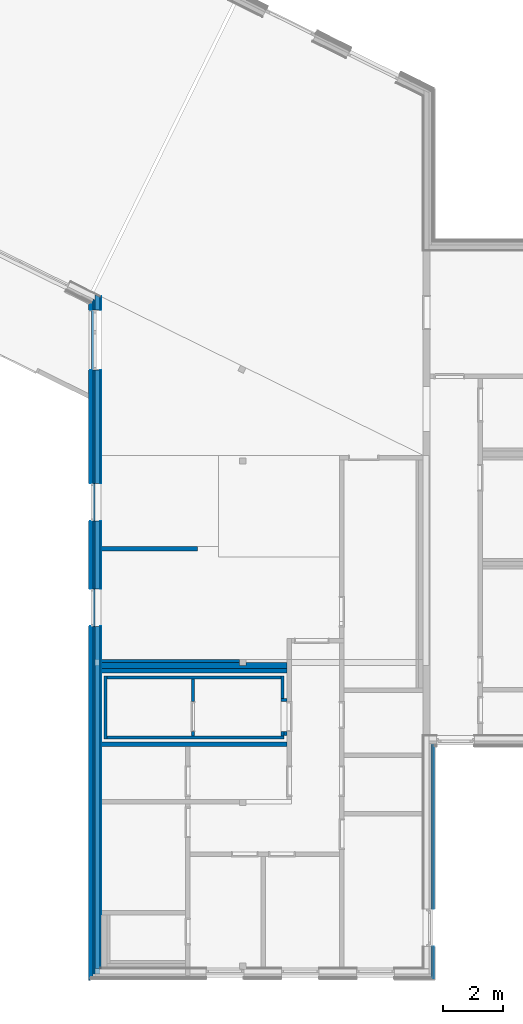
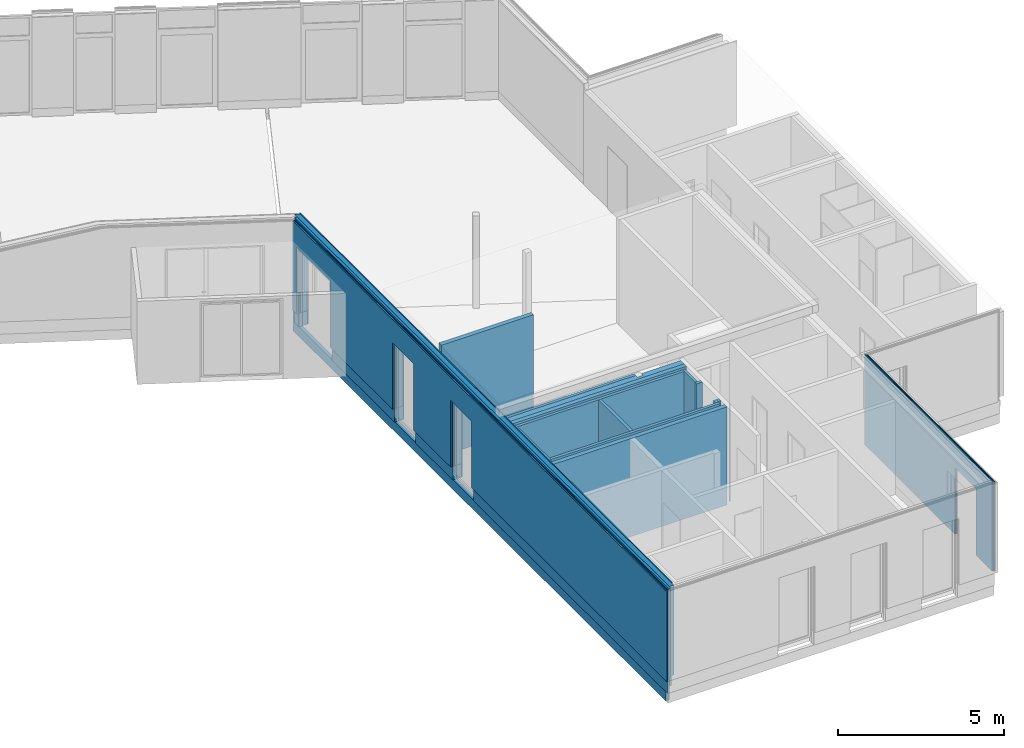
# One storey, part 2 of 23: 27 walls, 37 openings.
"""IFC4 building model written with IfcOpenShell, lengths in metres."""

from ifc_helpers import new_model, entity, si_unit, converted_unit, derived_unit, frame, frame_2d, origin, origin_with_axes, place, context, subcontext, project, spatial, polyline, rectangle, outline, extrude, material, element, save


model = new_model("IFC4")

# Units and contexts
model_context = context("Model", 3, precision=1e-05, world=origin())
body_context = subcontext(model_context, "Body", "Model", "MODEL_VIEW")
ifc_project = project(units=[si_unit("LENGTHUNIT", "METRE"), si_unit("AREAUNIT", "SQUARE_METRE"), si_unit("VOLUMEUNIT", "CUBIC_METRE"), si_unit("MASSUNIT", "GRAM", prefix="KILO"), converted_unit("PLANEANGLEUNIT", "DEGREE", entity("IfcPlaneAngleMeasure", 0.0174532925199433), si_unit("PLANEANGLEUNIT", "RADIAN"), dimensions=[0, 0, 0, 0, 0, 0, 0]), derived_unit("THERMALTRANSMITTANCEUNIT", [(si_unit("POWERUNIT", "WATT"), 1), (si_unit("THERMODYNAMICTEMPERATUREUNIT", "KELVIN"), -1), (si_unit("LENGTHUNIT", "METRE"), -2)]), derived_unit("VOLUMETRICFLOWRATEUNIT", [(si_unit("LENGTHUNIT", "METRE"), 3), (converted_unit("TIMEUNIT", "hour", entity("IfcTimeMeasure", 3600.0), si_unit("TIMEUNIT", "SECOND"), dimensions=[0, 0, 1, 0, 0, 0, 0]), -1), (si_unit("LENGTHUNIT", "METRE"), -1)])], contexts=[model_context])

# Site, building, storey
site_placement = place(None, origin())
site = spatial("IfcSite", under=ifc_project, at=site_placement, Name="Psychiatrie Neubau Wunstorf", CompositionType="ELEMENT")
building_placement = place(site_placement, origin())
building = spatial("IfcBuilding", under=site, at=building_placement, Name="Neubau H1 Sozialzentrum", CompositionType="ELEMENT")
storey_placement = place(building_placement, frame((0.0, 0.0, 0.7)))
storey = spatial("IfcBuildingStorey", under=building, at=storey_placement, Name="H1 Ebene 0", CompositionType="ELEMENT", Elevation=0.7)

# Wall, opening
ifc_material_1 = material(Name="WA-LB")
wall_1_placement = place(storey_placement, frame((-4.89052724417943, 11.6802463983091, 0.3), z_axis=(0.0, 0.0, 1.0), x_axis=(3.09474937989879e-07, -0.999999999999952, 0.0)))
wall_1 = element("IfcWall", 1, at=wall_1_placement, inside=storey, material=ifc_material_1, context=body_context, shape_type="SweptSolid", body=[
    extrude(rectangle(XDim=7.69392435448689, YDim=0.0360000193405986, at=frame_2d((3.84696217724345, 0.0180000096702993), x_axis=(1.0, 0.0))), origin_with_axes(), (0.0, 0.0, 1.0), 3.3),
])
opening_1_placement = place(wall_1_placement, frame((5.4539999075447, 0.0, -0.5), z_axis=(0.0, 1.0, 0.0), x_axis=(0.0, 0.0, 1.0)))
element("IfcOpeningElement", 2, at=opening_1_placement, cuts=wall_1, Name="Türöffnung", ObjectType="Opening", context=body_context, shape_type="SweptSolid", body=[
    extrude(outline(polyline([(2.95, 1.26), (2.95, 0.0), (0.0, 0.0), (0.0, 1.26), (2.95, 1.26)])), origin_with_axes(), (0.0, 0.0, 1.0), 0.0360000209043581),
])

ifc_material_2 = material(Name="WA-KL")
wall_2_placement = place(storey_placement, frame((-4.85452721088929, 11.6562463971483, 0.3), z_axis=(0.0, 0.0, 1.0), x_axis=(3.0859692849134e-07, -0.999999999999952, 0.0)))
wall_2 = element("IfcWall", 3, at=wall_2_placement, inside=storey, material=ifc_material_2, context=body_context, shape_type="SweptSolid", body=[
    extrude(rectangle(XDim=7.70592435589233, YDim=0.0240000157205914, at=frame_2d((3.85296217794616, 0.0120000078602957), x_axis=(1.0, 0.0))), origin_with_axes(), (0.0, 0.0, 1.0), 3.3),
])
opening_2_placement = place(wall_2_placement, frame((5.4299998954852, 0.0, -0.5), z_axis=(0.0, 1.0, 0.0), x_axis=(0.0, 0.0, 1.0)))
element("IfcOpeningElement", 4, at=opening_2_placement, cuts=wall_2, Name="Türöffnung", ObjectType="Opening", context=body_context, shape_type="SweptSolid", body=[
    extrude(outline(polyline([(2.95, 1.26), (2.95, 0.0), (0.0, 0.0), (0.0, 1.26), (2.95, 1.26)])), origin_with_axes(), (0.0, 0.0, 1.0), 0.0240000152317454),
])

ifc_material_3 = material(Name="WA-TL")
wall_3_placement = place(storey_placement, frame((-4.83052718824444, 11.6322463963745, 0.3), z_axis=(0.0, 0.0, 1.0), x_axis=(3.08641270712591e-07, -0.999999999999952, 0.0)))
wall_3 = element("IfcWall", 5, at=wall_3_placement, inside=storey, material=ifc_material_3, context=body_context, shape_type="SweptSolid", body=[
    extrude(outline(polyline([(-7.70592364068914, 2.37836606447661e-06), (0.0, 2.37836606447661e-06), (0.0, 0.0240024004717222), (-7.70592363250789, 0.0240023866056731), (-7.70592364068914, 2.37836606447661e-06)])), frame((7.70592364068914, -2.37836606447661e-06, 0.0), z_axis=(0.0, 0.0, 1.0), x_axis=(1.0, 0.0, 0.0)), (0.0, 0.0, 1.0), 3.3),
])
opening_3_placement = place(wall_3_placement, frame((5.40599988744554, 0.0, -0.5), z_axis=(0.0, 1.0, 0.0), x_axis=(0.0, 0.0, 1.0)))
element("IfcOpeningElement", 6, at=opening_3_placement, cuts=wall_3, Name="Türöffnung", ObjectType="Opening", context=body_context, shape_type="SweptSolid", body=[
    extrude(outline(polyline([(2.95, 1.26), (2.95, 0.0), (0.0, 0.0), (0.0, 1.26), (2.95, 1.26)])), origin_with_axes(), (0.0, 0.0, 1.0), 0.0240000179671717),
])

# Wall, openings
ifc_material_4 = material(Name="WA-LB")
wall_4_placement = place(storey_placement, frame((-15.8625266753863, 4.22632136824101, 0.3), z_axis=(0.0, 0.0, 1.0), x_axis=(8.14047304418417e-17, 1.0, 0.0)))
wall_4 = element("IfcWall", 7, at=wall_4_placement, inside=storey, material=ifc_material_4, context=body_context, shape_type="SweptSolid", body=[
    extrude(outline(polyline([(0.0, -0.0359999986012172), (22.345008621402, -0.0359999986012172), (22.3627585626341, 0.0), (0.0, 0.0), (0.0, -0.0359999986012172)])), frame((0.0, 0.0359999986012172, 0.0), z_axis=(0.0, 0.0, 1.0), x_axis=(1.0, 0.0, 0.0)), (0.0, 0.0, 1.0), 3.3),
])
opening_4_placement = place(wall_4_placement, frame((12.6339998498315, 0.0359999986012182, -0.5), z_axis=(0.0, -1.0, 0.0), x_axis=(0.0, 0.0, 1.0)))
element("IfcOpeningElement", 8, at=opening_4_placement, cuts=wall_4, Name="Fensteröffnung", ObjectType="Opening", context=body_context, shape_type="SweptSolid", body=[
    extrude(outline(polyline([(2.95, 1.25), (2.95, 0.0), (0.0, 0.0), (0.0, 1.25), (2.95, 1.25)])), origin_with_axes(), (0.0, 0.0, 1.0), 0.0359999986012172),
])
opening_5_placement = place(wall_4_placement, frame((16.1339998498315, 0.0359999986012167, -0.5), z_axis=(0.0, -1.0, 0.0), x_axis=(0.0, 0.0, 1.0)))
element("IfcOpeningElement", 9, at=opening_5_placement, cuts=wall_4, Name="Fensteröffnung", ObjectType="Opening", context=body_context, shape_type="SweptSolid", body=[
    extrude(outline(polyline([(2.95, 1.25), (2.95, 0.0), (0.0, 0.0), (0.0, 1.25), (2.95, 1.25)])), origin_with_axes(), (0.0, 0.0, 1.0), 0.0359999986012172),
])
opening_6_placement = place(wall_4_placement, frame((19.9022323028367, 0.0, -0.3), z_axis=(0.0, 1.0, 0.0), x_axis=(0.0, 0.0, 1.0)))
element("IfcOpeningElement", 10, at=opening_6_placement, cuts=wall_4, Name="Türöffnung", ObjectType="Opening", context=body_context, shape_type="SweptSolid", body=[
    extrude(outline(polyline([(2.75, 1.9999724), (2.75, 0.0), (0.0, 0.0), (0.0, 1.9999724), (2.75, 1.9999724)])), origin_with_axes(), (0.0, 0.0, 1.0), 0.0359999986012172),
])

ifc_material_5 = material(Name="WA-HD")
wall_5_placement = place(storey_placement, frame((-15.8985266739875, 4.06632204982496, 0.3), z_axis=(0.0, 0.0, 1.0), x_axis=(8.09064697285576e-17, 1.0, 0.0)))
wall_5 = element("IfcWall", 11, at=wall_5_placement, inside=storey, material=ifc_material_5, context=body_context, shape_type="SweptSolid", body=[
    extrude(outline(polyline([(0.0, -0.159999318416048), (22.4826198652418, -0.159999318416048), (22.5615081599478, 0.0), (0.0, 0.0), (0.0, -0.159999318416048)])), frame((0.0, 0.159999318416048, 0.0), z_axis=(0.0, 0.0, 1.0), x_axis=(1.0, 0.0, 0.0)), (0.0, 0.0, 1.0), 3.3),
])
opening_7_placement = place(wall_5_placement, frame((12.7939991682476, 0.15999931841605, -0.5), z_axis=(0.0, -1.0, 0.0), x_axis=(0.0, 0.0, 1.0)))
element("IfcOpeningElement", 12, at=opening_7_placement, cuts=wall_5, Name="Fensteröffnung", ObjectType="Opening", context=body_context, shape_type="SweptSolid", body=[
    extrude(outline(polyline([(2.95, 1.25), (2.95, 0.0), (0.0, 0.0), (0.0, 1.25), (2.95, 1.25)])), origin_with_axes(), (0.0, 0.0, 1.0), 0.159999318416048),
])
opening_8_placement = place(wall_5_placement, frame((16.2939991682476, 0.159999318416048, -0.5), z_axis=(0.0, -1.0, 0.0), x_axis=(0.0, 0.0, 1.0)))
element("IfcOpeningElement", 13, at=opening_8_placement, cuts=wall_5, Name="Fensteröffnung", ObjectType="Opening", context=body_context, shape_type="SweptSolid", body=[
    extrude(outline(polyline([(2.95, 1.25), (2.95, 0.0), (0.0, 0.0), (0.0, 1.25), (2.95, 1.25)])), origin_with_axes(), (0.0, 0.0, 1.0), 0.159999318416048),
])
opening_9_placement = place(wall_5_placement, frame((20.0622316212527, 0.0, -0.3), z_axis=(0.0, 1.0, 0.0), x_axis=(0.0, 0.0, 1.0)))
element("IfcOpeningElement", 14, at=opening_9_placement, cuts=wall_5, Name="Türöffnung", ObjectType="Opening", context=body_context, shape_type="SweptSolid", body=[
    extrude(outline(polyline([(2.75, 1.9999724), (2.75, 0.0), (0.0, 0.0), (0.0, 1.9999724), (2.75, 1.9999724)])), origin_with_axes(), (0.0, 0.0, 1.0), 0.159999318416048),
])

ifc_material_6 = material(Name="WA-DL")
wall_6_placement = place(storey_placement, frame((-16.0585259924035, 3.98632204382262, 0.3), z_axis=(0.0, 0.0, 1.0), x_axis=(8.09767114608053e-17, 1.0, 0.0)))
wall_6 = element("IfcWall", 15, at=wall_6_placement, inside=storey, material=ifc_material_6, context=body_context, shape_type="SweptSolid", body=[
    extrude(outline(polyline([(0.0, -0.0800000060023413), (22.4631177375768, -0.0800000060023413), (22.5025620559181, 0.0), (0.0, 0.0), (0.0, -0.0800000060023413)])), frame((0.0, 0.0800000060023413, 0.0), z_axis=(0.0, 0.0, 1.0), x_axis=(1.0, 0.0, 0.0)), (0.0, 0.0, 1.0), 3.3),
])
opening_10_placement = place(wall_6_placement, frame((12.8739991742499, 0.0800000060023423, -0.5), z_axis=(0.0, -1.0, 0.0), x_axis=(0.0, 0.0, 1.0)))
element("IfcOpeningElement", 16, at=opening_10_placement, cuts=wall_6, Name="Fensteröffnung", ObjectType="Opening", context=body_context, shape_type="SweptSolid", body=[
    extrude(outline(polyline([(2.95, 1.25), (2.95, 0.0), (0.0, 0.0), (0.0, 1.25), (2.95, 1.25)])), origin_with_axes(), (0.0, 0.0, 1.0), 0.0800000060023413),
])
opening_11_placement = place(wall_6_placement, frame((16.3739991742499, 0.0800000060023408, -0.5), z_axis=(0.0, -1.0, 0.0), x_axis=(0.0, 0.0, 1.0)))
element("IfcOpeningElement", 17, at=opening_11_placement, cuts=wall_6, Name="Fensteröffnung", ObjectType="Opening", context=body_context, shape_type="SweptSolid", body=[
    extrude(outline(polyline([(2.95, 1.25), (2.95, 0.0), (0.0, 0.0), (0.0, 1.25), (2.95, 1.25)])), origin_with_axes(), (0.0, 0.0, 1.0), 0.0800000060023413),
])
opening_12_placement = place(wall_6_placement, frame((20.1422316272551, 0.0, -0.3), z_axis=(0.0, 1.0, 0.0), x_axis=(0.0, 0.0, 1.0)))
element("IfcOpeningElement", 18, at=opening_12_placement, cuts=wall_6, Name="Türöffnung", ObjectType="Opening", context=body_context, shape_type="SweptSolid", body=[
    extrude(outline(polyline([(2.75, 1.9999724), (2.75, 0.0), (0.0, 0.0), (0.0, 1.9999724), (2.75, 1.9999724)])), origin_with_axes(), (0.0, 0.0, 1.0), 0.0800000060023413),
])

ifc_material_7 = material(Name="WA-LB")
wall_7_placement = place(storey_placement, frame((-16.1385259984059, 3.95032204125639, 0.3), z_axis=(0.0, 0.0, 1.0), x_axis=(8.10263134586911e-17, 1.0, 0.0)))
wall_7 = element("IfcWall", 19, at=wall_7_placement, inside=storey, material=ifc_material_7, context=body_context, shape_type="SweptSolid", body=[
    extrude(outline(polyline([(0.0, -0.0360000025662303), (22.4493664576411, -0.0360000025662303), (22.4671164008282, 0.0), (0.0, 0.0), (0.0, -0.0360000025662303)])), frame((0.0, 0.0360000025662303, 0.0), z_axis=(0.0, 0.0, 1.0), x_axis=(1.0, 0.0, 0.0)), (0.0, 0.0, 1.0), 3.3),
])
opening_13_placement = place(wall_7_placement, frame((12.9099991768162, 0.0360000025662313, -0.5), z_axis=(0.0, -1.0, 0.0), x_axis=(0.0, 0.0, 1.0)))
element("IfcOpeningElement", 20, at=opening_13_placement, cuts=wall_7, Name="Fensteröffnung", ObjectType="Opening", context=body_context, shape_type="SweptSolid", body=[
    extrude(outline(polyline([(2.95, 1.25), (2.95, 0.0), (0.0, 0.0), (0.0, 1.25), (2.95, 1.25)])), origin_with_axes(), (0.0, 0.0, 1.0), 0.0360000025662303),
])
opening_14_placement = place(wall_7_placement, frame((16.4099991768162, 0.0360000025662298, -0.5), z_axis=(0.0, -1.0, 0.0), x_axis=(0.0, 0.0, 1.0)))
element("IfcOpeningElement", 21, at=opening_14_placement, cuts=wall_7, Name="Fensteröffnung", ObjectType="Opening", context=body_context, shape_type="SweptSolid", body=[
    extrude(outline(polyline([(2.95, 1.25), (2.95, 0.0), (0.0, 0.0), (0.0, 1.25), (2.95, 1.25)])), origin_with_axes(), (0.0, 0.0, 1.0), 0.0360000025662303),
])
opening_15_placement = place(wall_7_placement, frame((20.1782316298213, 0.0, -0.3), z_axis=(0.0, 1.0, 0.0), x_axis=(0.0, 0.0, 1.0)))
element("IfcOpeningElement", 22, at=opening_15_placement, cuts=wall_7, Name="Türöffnung", ObjectType="Opening", context=body_context, shape_type="SweptSolid", body=[
    extrude(outline(polyline([(2.75, 1.9999724), (2.75, 0.0), (0.0, 0.0), (0.0, 1.9999724), (2.75, 1.9999724)])), origin_with_axes(), (0.0, 0.0, 1.0), 0.0360000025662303),
])

ifc_material_8 = material(Name="WA-KL")
wall_8_placement = place(storey_placement, frame((-16.1745260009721, 3.92632275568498, 0.3), z_axis=(0.0, 0.0, 1.0), x_axis=(8.10204985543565e-17, 1.0, 0.0)))
wall_8 = element("IfcWall", 23, at=wall_8_placement, inside=storey, material=ifc_material_8, context=body_context, shape_type="SweptSolid", body=[
    extrude(outline(polyline([(0.0, -0.0239992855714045), (22.4509776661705, -0.0239992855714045), (22.4628106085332, 0.0), (0.0, 0.0), (0.0, -0.0239992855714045)])), frame((0.0, 0.0239992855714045, 0.0), z_axis=(0.0, 0.0, 1.0), x_axis=(1.0, 0.0, 0.0)), (0.0, 0.0, 1.0), 3.3),
])
opening_16_placement = place(wall_8_placement, frame((12.9339984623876, 0.0239992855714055, -0.5), z_axis=(0.0, -1.0, 0.0), x_axis=(0.0, 0.0, 1.0)))
element("IfcOpeningElement", 24, at=opening_16_placement, cuts=wall_8, Name="Fensteröffnung", ObjectType="Opening", context=body_context, shape_type="SweptSolid", body=[
    extrude(outline(polyline([(2.95, 1.25), (2.95, 0.0), (0.0, 0.0), (0.0, 1.25), (2.95, 1.25)])), origin_with_axes(), (0.0, 0.0, 1.0), 0.0239992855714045),
])
opening_17_placement = place(wall_8_placement, frame((16.4339984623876, 0.023999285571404, -0.5), z_axis=(0.0, -1.0, 0.0), x_axis=(0.0, 0.0, 1.0)))
element("IfcOpeningElement", 25, at=opening_17_placement, cuts=wall_8, Name="Fensteröffnung", ObjectType="Opening", context=body_context, shape_type="SweptSolid", body=[
    extrude(outline(polyline([(2.95, 1.25), (2.95, 0.0), (0.0, 0.0), (0.0, 1.25), (2.95, 1.25)])), origin_with_axes(), (0.0, 0.0, 1.0), 0.0239992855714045),
])
opening_18_placement = place(wall_8_placement, frame((20.2022309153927, 0.0, -0.3), z_axis=(0.0, 1.0, 0.0), x_axis=(0.0, 0.0, 1.0)))
element("IfcOpeningElement", 26, at=opening_18_placement, cuts=wall_8, Name="Türöffnung", ObjectType="Opening", context=body_context, shape_type="SweptSolid", body=[
    extrude(outline(polyline([(2.75, 1.9999724), (2.75, 0.0), (0.0, 0.0), (0.0, 1.9999724), (2.75, 1.9999724)])), origin_with_axes(), (0.0, 0.0, 1.0), 0.0239992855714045),
])

ifc_material_9 = material(Name="WA-TL")
wall_9_placement = place(storey_placement, frame((-16.1985252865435, 3.90232275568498, 0.3), z_axis=(0.0, 0.0, 1.0), x_axis=(8.09877619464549e-17, 1.0, 0.0)))
wall_9 = element("IfcWall", 27, at=wall_9_placement, inside=storey, material=ifc_material_9, context=body_context, shape_type="SweptSolid", body=[
    extrude(outline(polyline([(0.0, -0.024), (22.4600527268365, -0.024), (22.471886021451, 0.0), (0.0, 0.0), (0.0, -0.024)])), frame((0.0, 0.024, 0.0), z_axis=(0.0, 0.0, 1.0), x_axis=(1.0, 0.0, 0.0)), (0.0, 0.0, 1.0), 3.3),
])
opening_19_placement = place(wall_9_placement, frame((12.9579984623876, 0.024000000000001, -0.5), z_axis=(0.0, -1.0, 0.0), x_axis=(0.0, 0.0, 1.0)))
element("IfcOpeningElement", 28, at=opening_19_placement, cuts=wall_9, Name="Fensteröffnung", ObjectType="Opening", context=body_context, shape_type="SweptSolid", body=[
    extrude(outline(polyline([(2.95, 1.25), (2.95, 0.0), (0.0, 0.0), (0.0, 1.25), (2.95, 1.25)])), origin_with_axes(), (0.0, 0.0, 1.0), 0.024),
])
opening_20_placement = place(wall_9_placement, frame((16.4579984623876, 0.0239999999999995, -0.5), z_axis=(0.0, -1.0, 0.0), x_axis=(0.0, 0.0, 1.0)))
element("IfcOpeningElement", 29, at=opening_20_placement, cuts=wall_9, Name="Fensteröffnung", ObjectType="Opening", context=body_context, shape_type="SweptSolid", body=[
    extrude(outline(polyline([(2.95, 1.25), (2.95, 0.0), (0.0, 0.0), (0.0, 1.25), (2.95, 1.25)])), origin_with_axes(), (0.0, 0.0, 1.0), 0.024),
])
opening_21_placement = place(wall_9_placement, frame((20.2262309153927, 0.0, -0.3), z_axis=(0.0, 1.0, 0.0), x_axis=(0.0, 0.0, 1.0)))
element("IfcOpeningElement", 30, at=opening_21_placement, cuts=wall_9, Name="Türöffnung", ObjectType="Opening", context=body_context, shape_type="SweptSolid", body=[
    extrude(outline(polyline([(2.75, 1.9999724), (2.75, 0.0), (0.0, 0.0), (0.0, 1.9999724), (2.75, 1.9999724)])), origin_with_axes(), (0.0, 0.0, 1.0), 0.024),
])

ifc_material_10 = material(Name="WA-HS")
wall_10_placement = place(storey_placement, frame((-16.2225252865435, 3.86032275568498, 0.3), z_axis=(0.0, 0.0, 1.0), x_axis=(8.08902522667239e-17, 1.0, 0.0)))
wall_10 = element("IfcWall", 31, at=wall_10_placement, inside=storey, material=ifc_material_10, context=body_context, shape_type="SweptSolid", body=[
    extrude(outline(polyline([(0.0, -0.042), (22.4871273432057, -0.042), (22.5078356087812, 0.0), (0.0, 0.0), (0.0, -0.042)])), frame((0.0, 0.042, 0.0), z_axis=(0.0, 0.0, 1.0), x_axis=(1.0, 0.0, 0.0)), (0.0, 0.0, 1.0), 3.3),
])
opening_22_placement = place(wall_10_placement, frame((12.9999984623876, 0.0420000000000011, -0.5), z_axis=(0.0, -1.0, 0.0), x_axis=(0.0, 0.0, 1.0)))
element("IfcOpeningElement", 32, at=opening_22_placement, cuts=wall_10, Name="Fensteröffnung", ObjectType="Opening", context=body_context, shape_type="SweptSolid", body=[
    extrude(outline(polyline([(2.95, 1.25), (2.95, 0.0), (0.0, 0.0), (0.0, 1.25), (2.95, 1.25)])), origin_with_axes(), (0.0, 0.0, 1.0), 0.042),
])
opening_23_placement = place(wall_10_placement, frame((16.4999984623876, 0.0419999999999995, -0.5), z_axis=(0.0, -1.0, 0.0), x_axis=(0.0, 0.0, 1.0)))
element("IfcOpeningElement", 33, at=opening_23_placement, cuts=wall_10, Name="Fensteröffnung", ObjectType="Opening", context=body_context, shape_type="SweptSolid", body=[
    extrude(outline(polyline([(2.95, 1.25), (2.95, 0.0), (0.0, 0.0), (0.0, 1.25), (2.95, 1.25)])), origin_with_axes(), (0.0, 0.0, 1.0), 0.042),
])
opening_24_placement = place(wall_10_placement, frame((20.2682309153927, 0.0, -0.3), z_axis=(0.0, 1.0, 0.0), x_axis=(0.0, 0.0, 1.0)))
element("IfcOpeningElement", 34, at=opening_24_placement, cuts=wall_10, Name="Türöffnung", ObjectType="Opening", context=body_context, shape_type="SweptSolid", body=[
    extrude(outline(polyline([(2.75, 1.9999724), (2.75, 0.0), (0.0, 0.0), (0.0, 1.9999724), (2.75, 1.9999724)])), origin_with_axes(), (0.0, 0.0, 1.0), 0.042),
])

ifc_material_11 = material(Name="WA-LB")
wall_11_placement = place(storey_placement, frame((-15.8625259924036, 4.26232204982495, -0.2), z_axis=(0.0, 0.0, 1.0), x_axis=(8.15360940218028e-17, 1.0, 0.0)))
wall_11 = element("IfcWall", 35, at=wall_11_placement, inside=storey, material=ifc_material_11, context=body_context, shape_type="SweptSolid", body=[
    extrude(outline(polyline([(0.0, -0.0209999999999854), (22.3090083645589, -0.0209999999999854), (22.3193624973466, 0.0), (0.0, 0.0), (0.0, -0.0209999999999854)])), frame((0.0, 0.0209999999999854, 0.0), z_axis=(0.0, 0.0, 1.0), x_axis=(1.0, 0.0, 0.0)), (0.0, 0.0, 1.0), 0.5),
])
opening_25_placement = place(wall_11_placement, frame((21.8662040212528, 0.0209999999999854, 0.0), z_axis=(0.0, -1.0, 0.0), x_axis=(0.0, 0.0, 1.0)))
element("IfcOpeningElement", 36, at=opening_25_placement, cuts=wall_11, Name="Wanddurchbruch", ObjectType="Opening", context=body_context, shape_type="SweptSolid", body=[
    extrude(outline(polyline([(0.5, 1.9999724), (0.5, 0.0), (0.0, 0.0), (0.0, 1.9999724), (0.5, 1.9999724)])), origin_with_axes(), (0.0, 0.0, 1.0), 0.0209999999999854),
])
opening_26_placement = place(wall_11_placement, frame((16.0979991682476, 0.0209999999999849, 0.0), z_axis=(0.0, -1.0, 0.0), x_axis=(0.0, 0.0, 1.0)))
element("IfcOpeningElement", 37, at=opening_26_placement, cuts=wall_11, Name="Wanddurchbruch", ObjectType="Opening", context=body_context, shape_type="SweptSolid", body=[
    extrude(outline(polyline([(0.5, 1.25), (0.5, 0.0), (0.0, 0.0), (0.0, 1.25), (0.5, 1.25)])), origin_with_axes(), (0.0, 0.0, 1.0), 0.0209999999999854),
])
opening_27_placement = place(wall_11_placement, frame((12.5979991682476, 0.0209999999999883, 0.0), z_axis=(0.0, -1.0, 0.0), x_axis=(0.0, 0.0, 1.0)))
element("IfcOpeningElement", 38, at=opening_27_placement, cuts=wall_11, Name="Wanddurchbruch", ObjectType="Opening", context=body_context, shape_type="SweptSolid", body=[
    extrude(outline(polyline([(0.5, 1.25), (0.5, 0.0), (0.0, 0.0), (0.0, 1.25), (0.5, 1.25)])), origin_with_axes(), (0.0, 0.0, 1.0), 0.0209999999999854),
])

ifc_material_12 = material(Name="WA-STB")
wall_12_placement = place(storey_placement, frame((-15.8835259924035, 4.24132204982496, -0.2), z_axis=(0.0, 0.0, 1.0), x_axis=(8.15070837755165e-17, 1.0, 0.0)))
wall_12 = element("IfcWall", 39, at=wall_12_placement, inside=storey, material=ifc_material_12, context=body_context, shape_type="SweptSolid", body=[
    extrude(outline(polyline([(0.0, -0.175), (22.316948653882, -0.175), (22.4032330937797, 0.0), (0.0, 0.0), (0.0, -0.175)])), frame((0.0, 0.175, 0.0), z_axis=(0.0, 0.0, 1.0), x_axis=(1.0, 0.0, 0.0)), (0.0, 0.0, 1.0), 0.5),
])
opening_28_placement = place(wall_12_placement, frame((21.8872040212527, 0.175, 0.0), z_axis=(0.0, -1.0, 0.0), x_axis=(0.0, 0.0, 1.0)))
element("IfcOpeningElement", 40, at=opening_28_placement, cuts=wall_12, Name="Wanddurchbruch", ObjectType="Opening", context=body_context, shape_type="SweptSolid", body=[
    extrude(outline(polyline([(0.5, 1.9999724), (0.5, 0.0), (0.0, 0.0), (0.0, 1.9999724), (0.5, 1.9999724)])), origin_with_axes(), (0.0, 0.0, 1.0), 0.175),
])
opening_29_placement = place(wall_12_placement, frame((16.1189991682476, 0.174999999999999, 0.0), z_axis=(0.0, -1.0, 0.0), x_axis=(0.0, 0.0, 1.0)))
element("IfcOpeningElement", 41, at=opening_29_placement, cuts=wall_12, Name="Wanddurchbruch", ObjectType="Opening", context=body_context, shape_type="SweptSolid", body=[
    extrude(outline(polyline([(0.5, 1.25), (0.5, 0.0), (0.0, 0.0), (0.0, 1.25), (0.5, 1.25)])), origin_with_axes(), (0.0, 0.0, 1.0), 0.175),
])
opening_30_placement = place(wall_12_placement, frame((12.6189991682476, 0.175000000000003, 0.0), z_axis=(0.0, -1.0, 0.0), x_axis=(0.0, 0.0, 1.0)))
element("IfcOpeningElement", 42, at=opening_30_placement, cuts=wall_12, Name="Wanddurchbruch", ObjectType="Opening", context=body_context, shape_type="SweptSolid", body=[
    extrude(outline(polyline([(0.5, 1.25), (0.5, 0.0), (0.0, 0.0), (0.0, 1.25), (0.5, 1.25)])), origin_with_axes(), (0.0, 0.0, 1.0), 0.175),
])

ifc_material_13 = material(Name="WA-DE")
wall_13_placement = place(storey_placement, frame((-16.0585259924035, 4.06632204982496, -0.56), z_axis=(0.0, 0.0, 1.0), x_axis=(8.12661321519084e-17, 1.0, 0.0)))
wall_13 = element("IfcWall", 43, at=wall_13_placement, inside=storey, material=ifc_material_13, context=body_context, shape_type="SweptSolid", body=[
    extrude(outline(polyline([(0.0, -0.120000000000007), (22.3831177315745, -0.120000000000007), (22.4422842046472, 0.0), (0.0, 0.0), (0.0, -0.120000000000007)])), frame((0.0, 0.120000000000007, 0.0), z_axis=(0.0, 0.0, 1.0), x_axis=(1.0, 0.0, 0.0)), (0.0, 0.0, 1.0), 0.86),
])
opening_31_placement = place(wall_13_placement, frame((22.0622040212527, 0.120000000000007, 0.36), z_axis=(0.0, -1.0, 0.0), x_axis=(0.0, 0.0, 1.0)))
element("IfcOpeningElement", 44, at=opening_31_placement, cuts=wall_13, Name="Wanddurchbruch", ObjectType="Opening", context=body_context, shape_type="SweptSolid", body=[
    extrude(outline(polyline([(0.5, 1.9999724), (0.5, 0.0), (0.0, 0.0), (0.0, 1.9999724), (0.5, 1.9999724)])), origin_with_axes(), (0.0, 0.0, 1.0), 0.120000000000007),
])
opening_32_placement = place(wall_13_placement, frame((16.2939991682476, 0.120000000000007, 0.36), z_axis=(0.0, -1.0, 0.0), x_axis=(0.0, 0.0, 1.0)))
element("IfcOpeningElement", 45, at=opening_32_placement, cuts=wall_13, Name="Wanddurchbruch", ObjectType="Opening", context=body_context, shape_type="SweptSolid", body=[
    extrude(outline(polyline([(0.5, 1.25), (0.5, 0.0), (0.0, 0.0), (0.0, 1.25), (0.5, 1.25)])), origin_with_axes(), (0.0, 0.0, 1.0), 0.120000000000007),
])
opening_33_placement = place(wall_13_placement, frame((12.7939991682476, 0.12000000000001, 0.36), z_axis=(0.0, -1.0, 0.0), x_axis=(0.0, 0.0, 1.0)))
element("IfcOpeningElement", 46, at=opening_33_placement, cuts=wall_13, Name="Wanddurchbruch", ObjectType="Opening", context=body_context, shape_type="SweptSolid", body=[
    extrude(outline(polyline([(0.5, 1.25), (0.5, 0.0), (0.0, 0.0), (0.0, 1.25), (0.5, 1.25)])), origin_with_axes(), (0.0, 0.0, 1.0), 0.120000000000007),
])

ifc_material_14 = material(Name="WA-LB")
wall_14_placement = place(storey_placement, frame((-16.1785259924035, 3.94632204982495, -0.2), z_axis=(0.0, 0.0, 1.0), x_axis=(8.11017298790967e-17, 1.0, 0.0)))
wall_14 = element("IfcWall", 47, at=wall_14_placement, inside=storey, material=ifc_material_14, context=body_context, shape_type="SweptSolid", body=[
    extrude(outline(polyline([(0.0, -0.0150000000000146), (22.4284908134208, -0.0150000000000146), (22.4358866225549, 0.0), (0.0, 0.0), (0.0, -0.0150000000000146)])), frame((0.0, 0.0150000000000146, 0.0), z_axis=(0.0, 0.0, 1.0), x_axis=(1.0, 0.0, 0.0)), (0.0, 0.0, 1.0), 0.5),
])
opening_34_placement = place(wall_14_placement, frame((22.1822040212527, 0.0150000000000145, 0.0), z_axis=(0.0, -1.0, 0.0), x_axis=(0.0, 0.0, 1.0)))
element("IfcOpeningElement", 48, at=opening_34_placement, cuts=wall_14, Name="Wanddurchbruch", ObjectType="Opening", context=body_context, shape_type="SweptSolid", body=[
    extrude(outline(polyline([(0.5, 1.9999724), (0.5, 0.0), (0.0, 0.0), (0.0, 1.9999724), (0.5, 1.9999724)])), origin_with_axes(), (0.0, 0.0, 1.0), 0.0150000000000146),
])
opening_35_placement = place(wall_14_placement, frame((16.4139991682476, 0.0150000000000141, 0.0), z_axis=(0.0, -1.0, 0.0), x_axis=(0.0, 0.0, 1.0)))
element("IfcOpeningElement", 49, at=opening_35_placement, cuts=wall_14, Name="Wanddurchbruch", ObjectType="Opening", context=body_context, shape_type="SweptSolid", body=[
    extrude(outline(polyline([(0.5, 1.25), (0.5, 0.0), (0.0, 0.0), (0.0, 1.25), (0.5, 1.25)])), origin_with_axes(), (0.0, 0.0, 1.0), 0.0150000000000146),
])
opening_36_placement = place(wall_14_placement, frame((12.9139991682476, 0.0150000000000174, 0.0), z_axis=(0.0, -1.0, 0.0), x_axis=(0.0, 0.0, 1.0)))
element("IfcOpeningElement", 50, at=opening_36_placement, cuts=wall_14, Name="Wanddurchbruch", ObjectType="Opening", context=body_context, shape_type="SweptSolid", body=[
    extrude(outline(polyline([(0.5, 1.25), (0.5, 0.0), (0.0, 0.0), (0.0, 1.25), (0.5, 1.25)])), origin_with_axes(), (0.0, 0.0, 1.0), 0.0150000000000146),
])

# Wall
ifc_material_15 = material(Name="WI-IW")
wall_15_placement = place(storey_placement, frame((-15.8625263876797, 11.6123947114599, -0.2), z_axis=(0.0, 0.0, 1.0), x_axis=(0.999999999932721, -1.15998947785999e-05, 0.0)))
element("IfcWall", 51, at=wall_15_placement, inside=storey, material=ifc_material_15, context=body_context, shape_type="SweptSolid", body=[
    extrude(outline(polyline([(0.0, 7.16046288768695e-05), (6.17286882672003, 7.16046288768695e-05), (6.1728670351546, 0.150069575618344), (0.0, 0.150069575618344), (0.0, 7.16046288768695e-05)])), frame((0.0, -7.16046288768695e-05, 0.0), z_axis=(0.0, 0.0, 1.0), x_axis=(1.0, 0.0, 0.0)), (0.0, 0.0, 1.0), 3.6),
    extrude(outline(polyline([(2.89940634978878e-08, 0.0842761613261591), (-9.77594603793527e-07, 0.0842761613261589), (2.8994063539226e-08, 0.0), (2.89940634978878e-08, 0.0842761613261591)])), frame((6.32286800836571, 0.0657218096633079, 0.0), z_axis=(0.0, 0.0, 1.0), x_axis=(1.0, 0.0, 0.0)), (0.0, 0.0, 1.0), 3.6),
])

# Wall, opening
ifc_material_16 = material(Name="WI-IW")
wall_16_placement = place(storey_placement, frame((-12.7626267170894, 11.962321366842, -0.2), z_axis=(0.0, 0.0, 1.0), x_axis=(0.0, 1.0, 0.0)))
wall_16 = element("IfcWall", 52, at=wall_16_placement, inside=storey, material=ifc_material_16, context=body_context, shape_type="SweptSolid", body=[
    extrude(rectangle(XDim=1.89991577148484, YDim=0.1, at=frame_2d((0.94995788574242, 0.05), x_axis=(1.0, 0.0))), origin_with_axes(), (0.0, 0.0, 1.0), 3.6),
])
opening_37_placement = place(wall_16_placement, frame((1.14696378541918, 0.1, 0.0), z_axis=(0.0, -1.0, 0.0), x_axis=(0.0, 0.0, 1.0)))
element("IfcOpeningElement", 53, at=opening_37_placement, cuts=wall_16, Name="Türöffnung", ObjectType="Opening", context=body_context, shape_type="SweptSolid", body=[
    extrude(outline(polyline([(2.46, 1.0), (2.46, 0.0), (0.0, 0.0), (0.0, 1.0), (2.46, 1.0)])), origin_with_axes(), (0.0, 0.0, 1.0), 0.1),
])

# Walls
ifc_material_17 = material(Name="WI-IW")
wall_17_placement = place(storey_placement, frame((-9.68965878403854, 14.5122463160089, -0.2), z_axis=(0.0, 0.0, 1.0), x_axis=(-1.0, 3.09491183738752e-11, 0.0)))
element("IfcWall", 54, at=wall_17_placement, inside=storey, material=ifc_material_17, context=body_context, shape_type="SweptSolid", body=[
    extrude(outline(polyline([(-6.17286789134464, -0.100000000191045), (0.0, -0.100000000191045), (0.0, 0.0), (-4.60799985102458, 0.0), (-4.60799985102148, -0.0999999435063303), (-4.80799985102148, -0.0999999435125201), (-4.80799985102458, 0.0), (-6.17286789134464, 0.0), (-6.17286789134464, -0.100000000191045)])), frame((6.17286789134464, 0.100000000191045, 0.0), z_axis=(0.0, 0.0, 1.0), x_axis=(1.0, 0.0, 0.0)), (0.0, 0.0, 1.0), 3.6),
])
ifc_material_18 = material(Name="Installationsraum")
wall_18_placement = place(storey_placement, frame((-9.68965890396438, 14.4122463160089, -0.2), z_axis=(0.0, 0.0, 1.0), x_axis=(-1.0, 3.09491189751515e-11, 0.0)))
element("IfcWall", 55, at=wall_18_placement, inside=storey, material=ifc_material_18, context=body_context, shape_type="SweptSolid", body=[
    extrude(outline(polyline([(-4.60799985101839, -0.200000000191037), (0.0, -0.200000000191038), (0.0, 0.0), (-6.17286786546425, 0.0), (-6.1728677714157, -0.200000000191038), (-4.80799985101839, -0.200000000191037), (-4.80799985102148, -0.0999999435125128), (-4.60799985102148, -0.099999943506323), (-4.60799985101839, -0.200000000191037)])), frame((6.1728677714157, 0.200000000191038, 0.0), z_axis=(0.0, 0.0, 1.0), x_axis=(1.0, 0.0, 0.0)), (0.0, 0.0, 1.0), 3.6),
])
ifc_material_19 = material(Name="WI-IW")
wall_19_placement = place(storey_placement, frame((-9.88965823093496, 13.9622371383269, -0.2), z_axis=(0.0, 0.0, 1.0), x_axis=(-1.0, -4.30319845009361e-10, 0.0)))
element("IfcWall", 56, at=wall_19_placement, inside=storey, material=ifc_material_19, context=body_context, shape_type="SweptSolid", body=[
    extrude(outline(polyline([(-5.77286287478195, -0.1), (0.0, -0.1), (0.0, 0.0), (-5.77286391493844, 0.0), (-5.77286287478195, -0.1)])), frame((5.77286287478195, 0.1, 0.0), z_axis=(0.0, 0.0, 1.0), x_axis=(1.0, 0.0, 0.0)), (0.0, 0.0, 1.0), 3.6),
])
ifc_material_20 = material(Name="WI-IW")
wall_20_placement = place(storey_placement, frame((-9.78965039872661, 13.2092851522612, -0.2), z_axis=(0.0, 0.0, 1.0), x_axis=(-1.04019951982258e-05, 0.999999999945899, 0.0)))
element("IfcWall", 57, at=wall_20_placement, inside=storey, material=ifc_material_20, context=body_context, shape_type="SweptSolid", body=[
    extrude(outline(polyline([(-1.04028098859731e-06, -0.100007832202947), (0.752950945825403, -0.100007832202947), (0.752951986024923, -7.83220294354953e-06), (0.0, -7.83220294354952e-06), (-1.04028098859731e-06, -0.100007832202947)])), frame((1.04028098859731e-06, 0.100007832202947, 0.0), z_axis=(0.0, 0.0, 1.0), x_axis=(1.0, 0.0, 0.0)), (0.0, 0.0, 1.0), 3.6),
])
ifc_material_21 = material(Name="WI-IW")
wall_21_placement = place(storey_placement, frame((-9.68965833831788, 13.2092851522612, -0.2), z_axis=(0.0, 0.0, 1.0), x_axis=(-1.0, -1.81906161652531e-14, 0.0)))
element("IfcWall", 58, at=wall_21_placement, inside=storey, material=ifc_material_21, context=body_context, shape_type="SweptSolid", body=[
    extrude(outline(polyline([(-0.199992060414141, -0.1), (0.0, -0.1), (-1.04019952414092e-06, 0.0), (-0.199992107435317, 0.0), (-0.199992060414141, -0.1)])), frame((0.199992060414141, 0.1, 0.0), z_axis=(0.0, 0.0, 1.0), x_axis=(1.0, 0.0, 0.0)), (0.0, 0.0, 1.0), 3.6),
])
ifc_material_22 = material(Name="WI-IW")
wall_22_placement = place(storey_placement, frame((-9.68965719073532, 12.1092851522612, -0.2), z_axis=(0.0, 0.0, 1.0), x_axis=(-1.0, 0.0, 0.0)))
element("IfcWall", 59, at=wall_22_placement, inside=storey, material=ifc_material_22, context=body_context, shape_type="SweptSolid", body=[
    extrude(rectangle(XDim=0.1, YDim=0.13, at=frame_2d((0.05, 0.065), x_axis=(1.0, 0.0))), origin_with_axes(), (0.0, 0.0, 1.0), 3.6),
])
ifc_material_23 = material(Name="WI-IW")
wall_23_placement = place(storey_placement, frame((-9.88965719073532, 12.1092851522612, -0.2), z_axis=(0.0, 0.0, 1.0), x_axis=(0.0, -1.0, 0.0)))
element("IfcWall", 60, at=wall_23_placement, inside=storey, material=ifc_material_23, context=body_context, shape_type="SweptSolid", body=[
    extrude(rectangle(XDim=0.146963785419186, YDim=0.1, at=frame_2d((0.073481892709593, 0.05), x_axis=(1.0, 0.0))), origin_with_axes(), (0.0, 0.0, 1.0), 3.6),
])
ifc_material_24 = material(Name="WI-IW")
wall_24_placement = place(storey_placement, frame((-15.8625266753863, 18.1091808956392, -0.2), z_axis=(0.0, 0.0, 1.0), x_axis=(1.0, -5.96573425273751e-11, 0.0)))
element("IfcWall", 61, at=wall_24_placement, inside=storey, material=ifc_material_24, context=body_context, shape_type="SweptSolid", body=[
    extrude(rectangle(XDim=3.20236891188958, YDim=0.15, at=frame_2d((1.60118445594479, 0.075), x_axis=(1.0, 0.0))), origin_with_axes(), (0.0, 0.0, 1.0), 4.08),
])
ifc_material_25 = material(Name="WI-IW")
wall_25_placement = place(storey_placement, frame((-15.8625266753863, 14.0622463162, -0.2), z_axis=(0.0, 0.0, 1.0), x_axis=(1.0, -3.09491185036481e-11, 0.0)))
element("IfcWall", 62, at=wall_25_placement, inside=storey, material=ifc_material_25, context=body_context, shape_type="SweptSolid", body=[
    extrude(rectangle(XDim=6.17286786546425, YDim=0.15, at=frame_2d((3.08643393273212, 0.075), x_axis=(1.0, 0.0))), origin_with_axes(), (0.0, 0.0, 1.0), 3.6),
])
ifc_material_26 = material(Name="WI-IW")
wall_26_placement = place(storey_placement, frame((-9.78965719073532, 11.962321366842, -0.2), z_axis=(0.0, 0.0, 1.0), x_axis=(-1.0, -4.15910584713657e-10, 0.0)))
element("IfcWall", 63, at=wall_26_placement, inside=storey, material=ifc_material_26, context=body_context, shape_type="SweptSolid", body=[
    extrude(rectangle(XDim=5.87286391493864, YDim=0.1, at=frame_2d((2.93643195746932, 0.05), x_axis=(1.0, 0.0))), origin_with_axes(), (0.0, 0.0, 1.0), 3.6),
])
ifc_material_27 = material(Name="WI-IW")
wall_27_placement = place(storey_placement, frame((-15.662521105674, 11.8623213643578, -0.2), z_axis=(0.0, 0.0, 1.0), x_axis=(0.0, 1.0, 0.0)))
element("IfcWall", 64, at=wall_27_placement, inside=storey, material=ifc_material_27, context=body_context, shape_type="SweptSolid", body=[
    extrude(rectangle(XDim=2.09991577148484, YDim=0.1, at=frame_2d((1.04995788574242, 0.05), x_axis=(1.0, 0.0))), origin_with_axes(), (0.0, 0.0, 1.0), 3.6),
])

save(model, "model.ifc")
